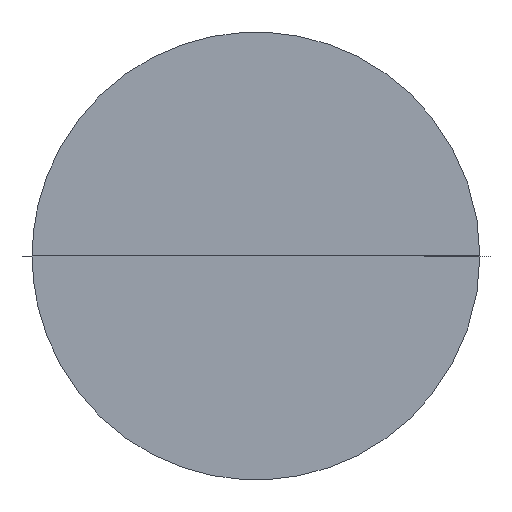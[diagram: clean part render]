
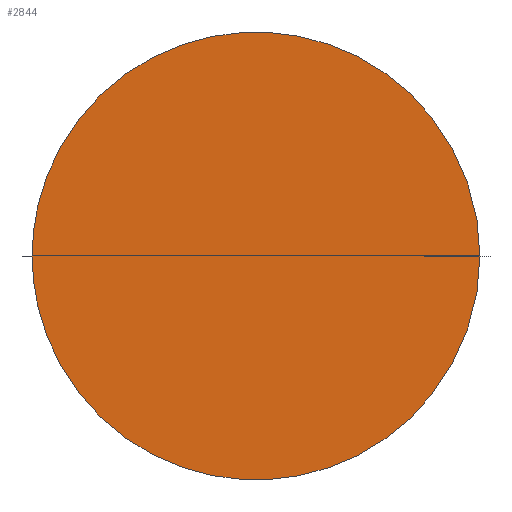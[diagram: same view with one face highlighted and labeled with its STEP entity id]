
A CAD part, top view. The second image highlights one B-rep face of the part: STEP entity #2844.
In plain terms, the highlighted planar face has unit normal (0, 0, 1).
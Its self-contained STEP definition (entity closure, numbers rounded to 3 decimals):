
#2844=ADVANCED_FACE('',(#3033),#4875,.T.);
#3033=FACE_OUTER_BOUND('',#3222,.T.);
#3222=EDGE_LOOP('',(#3453,#3454));
#3453=ORIENTED_EDGE('',*,*,#3927,.T.);
#3454=ORIENTED_EDGE('',*,*,#3928,.F.);
#3927=EDGE_CURVE('',#4401,#4402,#13054,.T.);
#3928=EDGE_CURVE('',#4401,#4402,#13055,.T.);
#4401=VERTEX_POINT('',#14963);
#4402=VERTEX_POINT('',#14964);
#4875=PLANE('',#14289);
#13054=(
BOUNDED_CURVE()
B_SPLINE_CURVE(2,(#14965,#14966,#14967,#14968,#14969),.UNSPECIFIED.,.F.,
 .F.)
B_SPLINE_CURVE_WITH_KNOTS((3,2,3),(0.,1.571,3.142),
 .UNSPECIFIED.)
CURVE()
GEOMETRIC_REPRESENTATION_ITEM()
RATIONAL_B_SPLINE_CURVE((1.,0.707,1.,0.707,1.))
REPRESENTATION_ITEM('')
);
#13055=(
BOUNDED_CURVE()
B_SPLINE_CURVE(2,(#14970,#14971,#14972,#14973,#14974),.UNSPECIFIED.,.F.,
 .F.)
B_SPLINE_CURVE_WITH_KNOTS((3,2,3),(0.,1.571,3.142),
 .UNSPECIFIED.)
CURVE()
GEOMETRIC_REPRESENTATION_ITEM()
RATIONAL_B_SPLINE_CURVE((1.,0.707,1.,0.707,1.))
REPRESENTATION_ITEM('')
);
#14289=AXIS2_PLACEMENT_3D('',#14962,#14322,$);
#14322=DIRECTION('',(0.,0.,1.));
#14962=CARTESIAN_POINT('',(259.126,289.274,397.));
#14963=CARTESIAN_POINT('',(255.682,-1.17,397.));
#14964=CARTESIAN_POINT('',(-318.318,-1.17,397.));
#14965=CARTESIAN_POINT('',(255.682,-1.17,397.));
#14966=CARTESIAN_POINT('',(255.682,285.83,397.));
#14967=CARTESIAN_POINT('',(-31.318,285.83,397.));
#14968=CARTESIAN_POINT('',(-318.318,285.83,397.));
#14969=CARTESIAN_POINT('',(-318.318,-1.17,397.));
#14970=CARTESIAN_POINT('',(255.682,-1.17,397.));
#14971=CARTESIAN_POINT('',(255.682,-288.17,397.));
#14972=CARTESIAN_POINT('',(-31.318,-288.17,397.));
#14973=CARTESIAN_POINT('',(-318.318,-288.17,397.));
#14974=CARTESIAN_POINT('',(-318.318,-1.17,397.));
